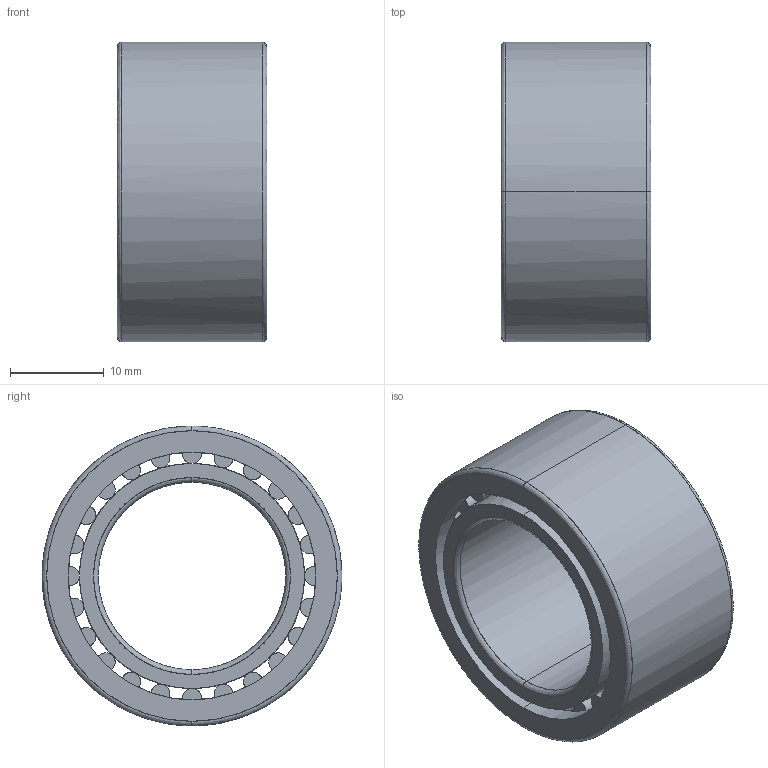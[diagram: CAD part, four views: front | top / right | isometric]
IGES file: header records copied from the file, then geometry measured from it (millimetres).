
Start section: ACIS data in IGES format
Global section: file name: Unknown; native system: ACIS; preprocessor: *IGES writer V5.2; author: unknown author; organization: unknown organization; date: 20021118.075226; units: millimetre
Bounding box: 16 x 32 x 32 mm (x, y, z)
Surface area: 7993.5 mm2 (no closed solid volume)
Topology: 0 solids, 0 shells, 170 faces, 952 edges, 952 vertices
Faces by surface type: bspline 170
